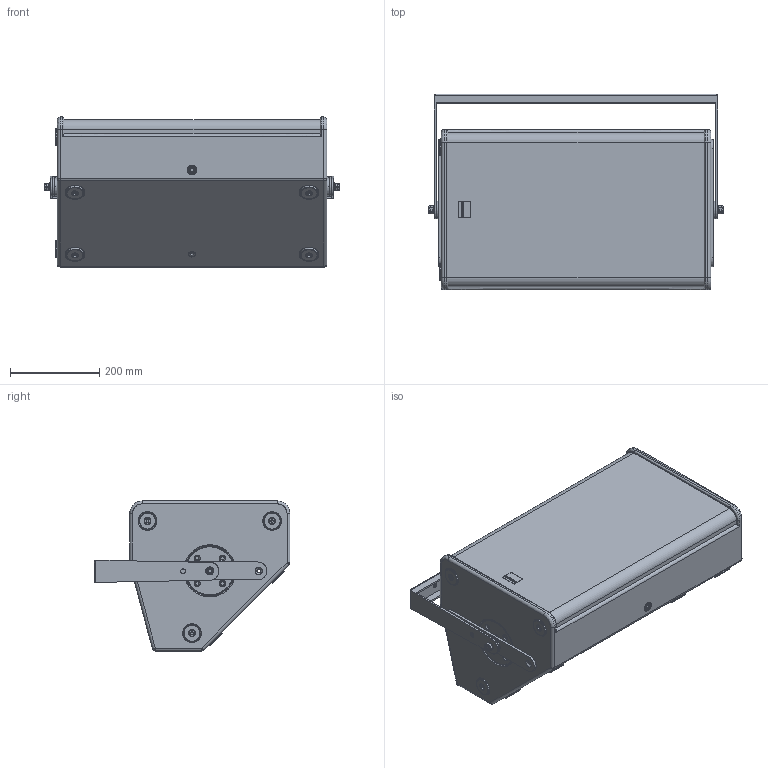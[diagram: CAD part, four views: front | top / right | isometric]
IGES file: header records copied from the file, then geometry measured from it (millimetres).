
Start section: SolidWorks IGES file using analytic representation for surfaces
Global section: file name: C:\Dokumente und Einstellungen\PC_Fabian\Desktop\TS-Serie\Seeburg_TSM12_Bracket_hor.IGS; native system: SolidWorks 2009; preprocessor: SolidWorks 2009; author: PC_Fabian; date: 121017.141558; units: millimetre
Bounding box: 662.47 x 440 x 337 mm (x, y, z)
Surface area: 2091494.6 mm2 (no closed solid volume)
Topology: 0 solids, 0 shells, 855 faces, 12564 edges, 12554 vertices
Faces by surface type: revolution 440, bspline 415
